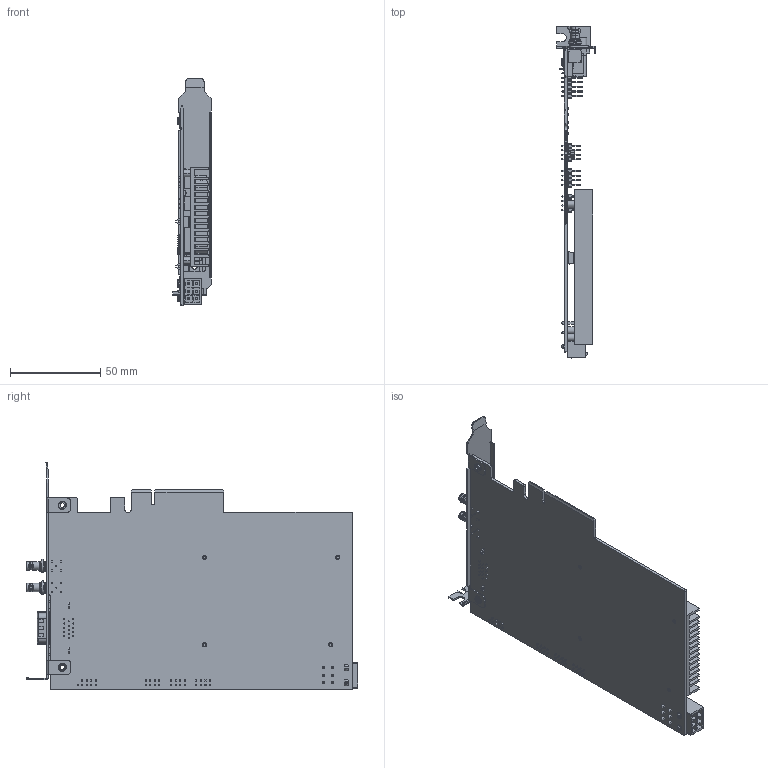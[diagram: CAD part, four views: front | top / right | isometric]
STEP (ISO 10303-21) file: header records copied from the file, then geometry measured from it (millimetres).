
FILE_DESCRIPTION((''),'2;1');
FILE_NAME('00-MV-20538-REV10_ASM','2024-12-23T17:02:49',('yanyucai'),(''),'CREO PARAMETRIC BY PTC INC, 2020044','CREO PARAMETRIC BY PTC INC, 2020044','');
FILE_SCHEMA(('CONFIG_CONTROL_DESIGN'));
Products named in the file (18): PCB-MV-20538-REV10; 101305831; HDR15M_8_89; 101305301; 101304647; ST-D4X4D2X1-F2X3-CU; 101400292; 101303165; 101302479; 100600296; 100600291; 100600542; MV-20538-REV10_ASM; DE-15-002721; DA-11-077825; DE-20-024735_ASM; DE-11-097950; 00-MV-20538-REV10_ASM
Assembly tree (27 placements, depth 3):
  00-MV-20538-REV10_ASM
    MV-20538-REV10_ASM
      PCB-MV-20538-REV10
      101305831  x2
      HDR15M_8_89
      101305301
      101304647
      ST-D4X4D2X1-F2X3-CU  x4
      101400292
      101303165  x3
      101302479
      100600296
      100600291  x4
      100600542  x2
    DE-20-024735_ASM
      DE-15-002721
      DA-11-077825
    DE-11-097950
Bounding box: 21.59 x 184.27 x 126.31 mm (x, y, z)
Volume: 53223.9 mm3; surface area: 84071.5 mm2
Topology: 26 solids, 77 shells, 4262 faces, 11691 edges, 7497 vertices
Faces by surface type: plane 2777, cylinder 984, bspline 231, cone 115, torus 92, sphere 58, revolution 4, extrusion 1
Entity records: 131131 total; most frequent: CARTESIAN_POINT 42898, ORIENTED_EDGE 18177, DIRECTION 17540, EDGE_CURVE 9627, VECTOR 6810, LINE 6809, VERTEX_POINT 6289, AXIS2_PLACEMENT_3D 5364
